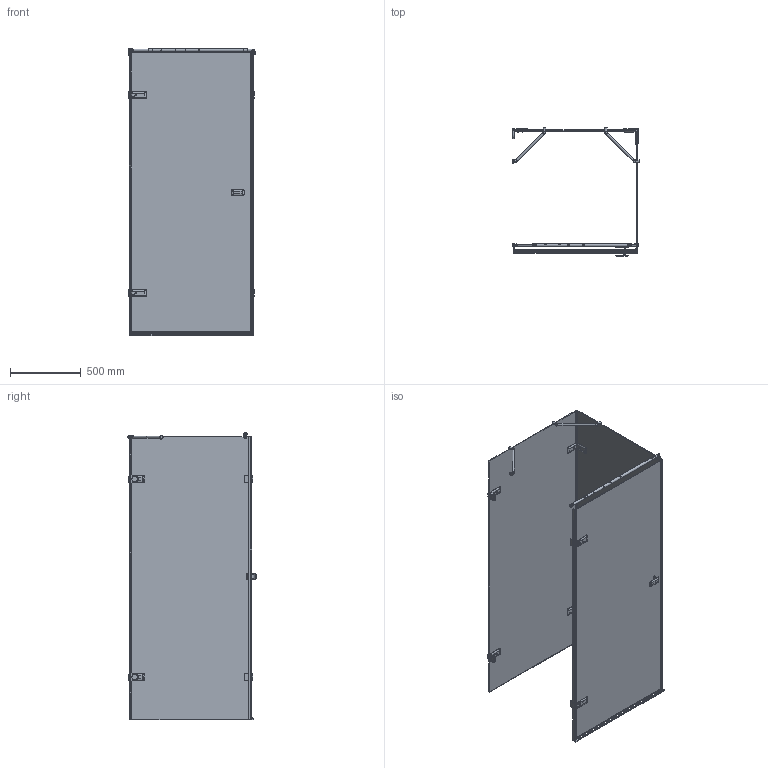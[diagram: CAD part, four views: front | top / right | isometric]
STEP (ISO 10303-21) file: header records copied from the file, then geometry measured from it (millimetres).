
FILE_DESCRIPTION(/* description */ (''),/* implementation_level */ '2;1');
FILE_NAME(/* name */ 'D:\!\! 1 Сначала\77\TREND SQUARE GK-863DONE\TREND SQUARE GK-863DONE левая модель\TREND SQUARE GK-863DONE ЛЕВАЯ-3D.stp',/* time_stamp */ '2021-01-18T19:10:45+03:00',/* author */ ('User'),/* organization */ (''),/* preprocessor_version */ 'ST-DEVELOPER v15.2',/* originating_system */ 'Autodesk Inventor 2014',/* authorisation */ '');
FILE_SCHEMA (('AUTOMOTIVE_DESIGN { 1 0 10303 214 3 1 1 }'));
Products named in the file (1): TREND SQUARE GK-863DONE ЛЕВАЯ-3
D
Bounding box: 894.5 x 906.1 x 2031.5 mm (x, y, z)
Volume: 32559895 mm3; surface area: 11105789.4 mm2
Topology: 7 solids, 36 shells, 1585 faces, 4131 edges, 2707 vertices
Faces by surface type: plane 878, cylinder 445, bspline 105, cone 78, torus 61, sphere 18
Full cylindrical faces by diameter (mm): 3 x1, 4 x6, 4.134 x5, 4.509 x2, 4.917 x4, 5 x11, 5.2 x2, 6 x8, 6.647 x1, 7 x2, 7.2 x4, 8 x5, 8.5 x1, 9 x3, 9.3 x2, 11 x2, 12 x3, 12.5 x1, 13 x10, 15 x4, 15.2 x2, 16 x10, 16.8 x2, 17 x1, 20 x7, 26 x2, 28 x2, 28.5 x2, 40 x2
Entity records: 54928 total; most frequent: CARTESIAN_POINT 16617, ORIENTED_EDGE 7402, DIRECTION 7391, EDGE_CURVE 3698, AXIS2_PLACEMENT_3D 2556, VERTEX_POINT 2424, LINE 2279, VECTOR 2279
